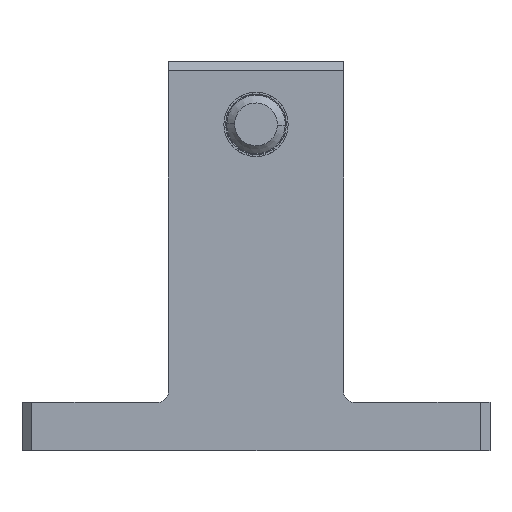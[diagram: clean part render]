
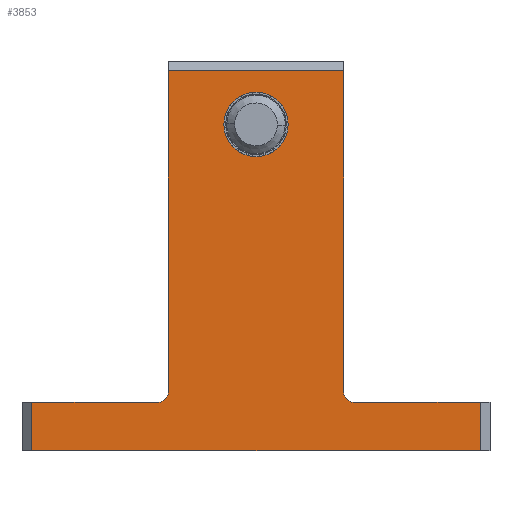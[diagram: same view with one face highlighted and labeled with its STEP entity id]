
A CAD part, front view. The second image highlights one B-rep face of the part: STEP entity #3853.
In plain terms, the highlighted planar face has unit normal (0, -1, 0).
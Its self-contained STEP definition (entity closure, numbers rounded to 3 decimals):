
#150 = LINE ( 'NONE', #1091, #651 ) ;
#191 = VECTOR ( 'NONE', #5988, 1000. ) ;
#301 = PLANE ( 'NONE',  #1492 ) ;
#310 = EDGE_CURVE ( 'NONE', #3701, #4440, #3423, .T. ) ;
#311 = CARTESIAN_POINT ( 'NONE',  ( -48.897, 26.743, 13.5 ) ) ;
#344 = ORIENTED_EDGE ( 'NONE', *, *, #5190, .F. ) ;
#588 = CARTESIAN_POINT ( 'NONE',  ( -57.897, 26.743, 19. ) ) ;
#643 = ORIENTED_EDGE ( 'NONE', *, *, #3517, .T. ) ;
#651 = VECTOR ( 'NONE', #4932, 1000. ) ;
#683 = DIRECTION ( 'NONE',  ( -1., 0., 0. ) ) ;
#911 = CARTESIAN_POINT ( 'NONE',  ( -39.897, 26.743, 3. ) ) ;
#1091 = CARTESIAN_POINT ( 'NONE',  ( -65.897, 26.743, -15. ) ) ;
#1107 = DIRECTION ( 'NONE',  ( 0., 0., 1. ) ) ;
#1492 = AXIS2_PLACEMENT_3D ( 'NONE', #4102, #9596, #5000 ) ;
#1762 = VERTEX_POINT ( 'NONE', #6610 ) ;
#1850 = VERTEX_POINT ( 'NONE', #8231 ) ;
#1983 = AXIS2_PLACEMENT_3D ( 'NONE', #311, #5702, #1107 ) ;
#2002 = AXIS2_PLACEMENT_3D ( 'NONE', #2612, #7950, #3349 ) ;
#2059 = DIRECTION ( 'NONE',  ( 0., 1., 0. ) ) ;
#2188 = VECTOR ( 'NONE', #8571, 1000. ) ;
#2194 = ORIENTED_EDGE ( 'NONE', *, *, #3269, .T. ) ;
#2424 = CARTESIAN_POINT ( 'NONE',  ( -39.897, 26.743, -14. ) ) ;
#2612 = CARTESIAN_POINT ( 'NONE',  ( -58.897, 26.743, -14. ) ) ;
#2822 = FACE_OUTER_BOUND ( 'NONE', #6083, .T. ) ;
#2851 = EDGE_CURVE ( 'NONE', #7141, #6809, #6124, .T. ) ;
#2903 = DIRECTION ( 'NONE',  ( 0., 0., 1. ) ) ;
#3204 = VECTOR ( 'NONE', #2903, 1000. ) ;
#3269 = EDGE_CURVE ( 'NONE', #9992, #9572, #8001, .T. ) ;
#3290 = CARTESIAN_POINT ( 'NONE',  ( -48.897, 26.743, 10.2 ) ) ;
#3318 = DIRECTION ( 'NONE',  ( -1., 0., 0. ) ) ;
#3331 = DIRECTION ( 'NONE',  ( 0., 0., -1. ) ) ;
#3349 = DIRECTION ( 'NONE',  ( 0., 0., -1. ) ) ;
#3406 = DIRECTION ( 'NONE',  ( -1., 0., 0. ) ) ;
#3423 = LINE ( 'NONE', #4344, #7062 ) ;
#3517 = EDGE_CURVE ( 'NONE', #3738, #9536, #3559, .T. ) ;
#3559 = LINE ( 'NONE', #6873, #3204 ) ;
#3595 = CARTESIAN_POINT ( 'NONE',  ( -48.897, 26.743, 13.5 ) ) ;
#3701 = VERTEX_POINT ( 'NONE', #9280 ) ;
#3738 = VERTEX_POINT ( 'NONE', #3945 ) ;
#3853 = ADVANCED_FACE ( 'NONE', ( #7867, #2822 ), #301, .T. ) ;
#3858 = CIRCLE ( 'NONE', #8688, 1. ) ;
#3864 = EDGE_CURVE ( 'NONE', #6809, #7141, #9065, .T. ) ;
#3865 = ORIENTED_EDGE ( 'NONE', *, *, #6491, .T. ) ;
#3945 = CARTESIAN_POINT ( 'NONE',  ( -25.897, 26.743, -20. ) ) ;
#4102 = CARTESIAN_POINT ( 'NONE',  ( -71.897, 26.743, 19. ) ) ;
#4146 = CARTESIAN_POINT ( 'NONE',  ( -31.897, 26.743, -15. ) ) ;
#4260 = ORIENTED_EDGE ( 'NONE', *, *, #6913, .T. ) ;
#4282 = EDGE_CURVE ( 'NONE', #9536, #1762, #6803, .T. ) ;
#4344 = CARTESIAN_POINT ( 'NONE',  ( -48.897, 26.743, 19. ) ) ;
#4440 = VERTEX_POINT ( 'NONE', #588 ) ;
#4670 = ORIENTED_EDGE ( 'NONE', *, *, #5751, .F. ) ;
#4932 = DIRECTION ( 'NONE',  ( -1., 0., 0. ) ) ;
#5000 = DIRECTION ( 'NONE',  ( 0., 0., -1. ) ) ;
#5002 = EDGE_LOOP ( 'NONE', ( #5238, #5680 ) ) ;
#5071 = CARTESIAN_POINT ( 'NONE',  ( -58.897, 26.743, -15. ) ) ;
#5102 = ORIENTED_EDGE ( 'NONE', *, *, #8139, .T. ) ;
#5190 = EDGE_CURVE ( 'NONE', #9421, #1850, #9385, .T. ) ;
#5238 = ORIENTED_EDGE ( 'NONE', *, *, #3864, .T. ) ;
#5354 = ORIENTED_EDGE ( 'NONE', *, *, #5849, .T. ) ;
#5398 = CARTESIAN_POINT ( 'NONE',  ( -71.897, 26.743, -15. ) ) ;
#5680 = ORIENTED_EDGE ( 'NONE', *, *, #2851, .T. ) ;
#5702 = DIRECTION ( 'NONE',  ( 0., 1., 0. ) ) ;
#5751 = EDGE_CURVE ( 'NONE', #3738, #9572, #6075, .T. ) ;
#5849 = EDGE_CURVE ( 'NONE', #9421, #9992, #150, .T. ) ;
#5988 = DIRECTION ( 'NONE',  ( 0., 0., -1. ) ) ;
#6075 = LINE ( 'NONE', #8637, #7845 ) ;
#6083 = EDGE_LOOP ( 'NONE', ( #8406, #4260, #3865, #6764, #5102, #344, #5354, #2194, #4670, #643 ) ) ;
#6124 = CIRCLE ( 'NONE', #8757, 3.3 ) ;
#6404 = CARTESIAN_POINT ( 'NONE',  ( -71.897, 26.743, -0.5 ) ) ;
#6491 = EDGE_CURVE ( 'NONE', #7748, #3701, #7013, .T. ) ;
#6610 = CARTESIAN_POINT ( 'NONE',  ( -38.897, 26.743, -15. ) ) ;
#6764 = ORIENTED_EDGE ( 'NONE', *, *, #310, .T. ) ;
#6803 = LINE ( 'NONE', #4146, #7152 ) ;
#6809 = VERTEX_POINT ( 'NONE', #8970 ) ;
#6873 = CARTESIAN_POINT ( 'NONE',  ( -25.897, 26.743, -0.5 ) ) ;
#6913 = EDGE_CURVE ( 'NONE', #1762, #7748, #3858, .T. ) ;
#7013 = LINE ( 'NONE', #911, #2188 ) ;
#7062 = VECTOR ( 'NONE', #683, 1000. ) ;
#7071 = VECTOR ( 'NONE', #3331, 1000. ) ;
#7141 = VERTEX_POINT ( 'NONE', #3290 ) ;
#7152 = VECTOR ( 'NONE', #3406, 1000. ) ;
#7524 = DIRECTION ( 'NONE',  ( 0., 0., -1. ) ) ;
#7748 = VERTEX_POINT ( 'NONE', #2424 ) ;
#7845 = VECTOR ( 'NONE', #3318, 1000. ) ;
#7867 = FACE_BOUND ( 'NONE', #5002, .T. ) ;
#7950 = DIRECTION ( 'NONE',  ( 0., -1., 0. ) ) ;
#8001 = LINE ( 'NONE', #6404, #7071 ) ;
#8129 = CARTESIAN_POINT ( 'NONE',  ( -57.897, 26.743, 3. ) ) ;
#8139 = EDGE_CURVE ( 'NONE', #4440, #1850, #9828, .T. ) ;
#8227 = CARTESIAN_POINT ( 'NONE',  ( -38.897, 26.743, -14. ) ) ;
#8231 = CARTESIAN_POINT ( 'NONE',  ( -57.897, 26.743, -14. ) ) ;
#8406 = ORIENTED_EDGE ( 'NONE', *, *, #4282, .T. ) ;
#8571 = DIRECTION ( 'NONE',  ( 0., 0., 1. ) ) ;
#8637 = CARTESIAN_POINT ( 'NONE',  ( -48.897, 26.743, -20. ) ) ;
#8688 = AXIS2_PLACEMENT_3D ( 'NONE', #8227, #8996, #7524 ) ;
#8757 = AXIS2_PLACEMENT_3D ( 'NONE', #3595, #2059, #9798 ) ;
#8970 = CARTESIAN_POINT ( 'NONE',  ( -48.897, 26.743, 16.8 ) ) ;
#8994 = CARTESIAN_POINT ( 'NONE',  ( -71.897, 26.743, -20. ) ) ;
#8996 = DIRECTION ( 'NONE',  ( 0., 1., 0. ) ) ;
#9029 = CARTESIAN_POINT ( 'NONE',  ( -25.897, 26.743, -15. ) ) ;
#9065 = CIRCLE ( 'NONE', #1983, 3.3 ) ;
#9280 = CARTESIAN_POINT ( 'NONE',  ( -39.897, 26.743, 19. ) ) ;
#9385 = CIRCLE ( 'NONE', #2002, 1. ) ;
#9421 = VERTEX_POINT ( 'NONE', #5071 ) ;
#9536 = VERTEX_POINT ( 'NONE', #9029 ) ;
#9572 = VERTEX_POINT ( 'NONE', #8994 ) ;
#9596 = DIRECTION ( 'NONE',  ( 0., -1., 0. ) ) ;
#9798 = DIRECTION ( 'NONE',  ( 0., 0., 1. ) ) ;
#9828 = LINE ( 'NONE', #8129, #191 ) ;
#9992 = VERTEX_POINT ( 'NONE', #5398 ) ;
